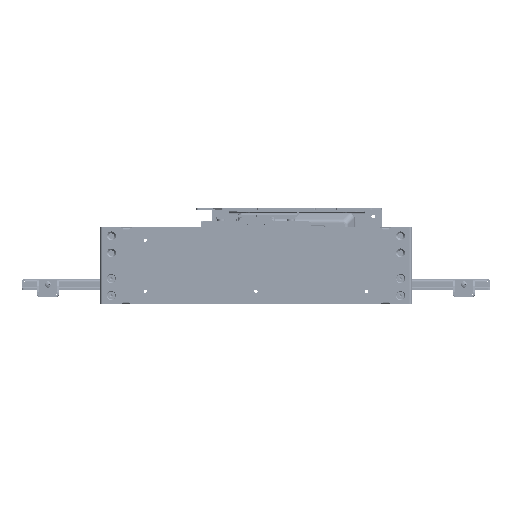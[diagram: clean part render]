
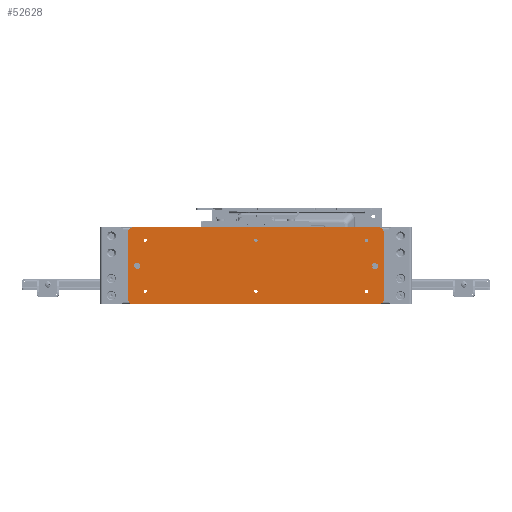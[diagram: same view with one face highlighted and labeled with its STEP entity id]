
A CAD part, top view. The second image highlights one B-rep face of the part: STEP entity #52628.
In plain terms, the highlighted planar face has unit normal (0, 0, 1) as drawn and (0, 0, -1) by its records, which use the part's own axes.
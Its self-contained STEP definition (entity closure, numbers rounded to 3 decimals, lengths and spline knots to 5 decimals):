
#4803=LINE('',#84279,#9643);
#4807=LINE('',#84288,#9647);
#4811=LINE('',#84297,#9651);
#4817=LINE('',#84321,#9657);
#9643=VECTOR('',#68174,1.);
#9647=VECTOR('',#68180,1.);
#9651=VECTOR('',#68186,1.);
#9657=VECTOR('',#68206,1.);
#17916=ORIENTED_EDGE('',*,*,#30317,.T.);
#17917=ORIENTED_EDGE('',*,*,#30318,.T.);
#17918=ORIENTED_EDGE('',*,*,#30319,.T.);
#17919=ORIENTED_EDGE('',*,*,#30320,.T.);
#17920=ORIENTED_EDGE('',*,*,#30321,.T.);
#17921=ORIENTED_EDGE('',*,*,#30322,.T.);
#17922=ORIENTED_EDGE('',*,*,#30300,.T.);
#17923=ORIENTED_EDGE('',*,*,#30302,.T.);
#17924=ORIENTED_EDGE('',*,*,#30305,.F.);
#17925=ORIENTED_EDGE('',*,*,#30323,.T.);
#17926=ORIENTED_EDGE('',*,*,#30295,.F.);
#17927=ORIENTED_EDGE('',*,*,#30324,.T.);
#17928=ORIENTED_EDGE('',*,*,#30291,.T.);
#17929=ORIENTED_EDGE('',*,*,#30325,.T.);
#17930=ORIENTED_EDGE('',*,*,#30287,.T.);
#17931=ORIENTED_EDGE('',*,*,#30326,.T.);
#30287=EDGE_CURVE('',#36923,#36924,#4803,.T.);
#30291=EDGE_CURVE('',#36927,#36928,#4807,.T.);
#30295=EDGE_CURVE('',#36931,#36932,#4811,.T.);
#30300=EDGE_CURVE('',#36936,#36936,#40856,.F.);
#30302=EDGE_CURVE('',#36938,#36938,#40858,.F.);
#30305=EDGE_CURVE('',#36941,#36942,#4817,.T.);
#30317=EDGE_CURVE('',#36949,#36949,#40869,.F.);
#30318=EDGE_CURVE('',#36950,#36950,#40870,.F.);
#30319=EDGE_CURVE('',#36951,#36951,#40871,.F.);
#30320=EDGE_CURVE('',#36952,#36952,#40872,.F.);
#30321=EDGE_CURVE('',#36953,#36953,#40873,.F.);
#30322=EDGE_CURVE('',#36954,#36954,#40874,.F.);
#30323=EDGE_CURVE('',#36941,#36932,#40875,.T.);
#30324=EDGE_CURVE('',#36931,#36927,#40876,.T.);
#30325=EDGE_CURVE('',#36928,#36923,#40877,.T.);
#30326=EDGE_CURVE('',#36924,#36942,#40878,.T.);
#36923=VERTEX_POINT('',#84280);
#36924=VERTEX_POINT('',#84281);
#36927=VERTEX_POINT('',#84289);
#36928=VERTEX_POINT('',#84290);
#36931=VERTEX_POINT('',#84298);
#36932=VERTEX_POINT('',#84299);
#36936=VERTEX_POINT('',#84309);
#36938=VERTEX_POINT('',#84314);
#36941=VERTEX_POINT('',#84320);
#36942=VERTEX_POINT('',#84322);
#36949=VERTEX_POINT('',#84343);
#36950=VERTEX_POINT('',#84345);
#36951=VERTEX_POINT('',#84347);
#36952=VERTEX_POINT('',#84349);
#36953=VERTEX_POINT('',#84351);
#36954=VERTEX_POINT('',#84353);
#40856=CIRCLE('',#59394,0.00396);
#40858=CIRCLE('',#59397,0.00396);
#40869=CIRCLE('',#59411,0.00246);
#40870=CIRCLE('',#59412,0.00246);
#40871=CIRCLE('',#59413,0.00246);
#40872=CIRCLE('',#59414,0.00246);
#40873=CIRCLE('',#59415,0.00246);
#40874=CIRCLE('',#59416,0.00246);
#40875=CIRCLE('',#59417,0.00635);
#40876=CIRCLE('',#59418,0.00635);
#40877=CIRCLE('',#59419,0.00635);
#40878=CIRCLE('',#59420,0.00635);
#43578=EDGE_LOOP('',(#17916));
#43579=EDGE_LOOP('',(#17917));
#43580=EDGE_LOOP('',(#17918));
#43581=EDGE_LOOP('',(#17919));
#43582=EDGE_LOOP('',(#17920));
#43583=EDGE_LOOP('',(#17921));
#43584=EDGE_LOOP('',(#17922));
#43585=EDGE_LOOP('',(#17923));
#43586=EDGE_LOOP('',(#17924,#17925,#17926,#17927,#17928,#17929,#17930,#17931));
#47407=FACE_BOUND('',#43578,.T.);
#47408=FACE_BOUND('',#43579,.T.);
#47409=FACE_BOUND('',#43580,.T.);
#47410=FACE_BOUND('',#43581,.T.);
#47411=FACE_BOUND('',#43582,.T.);
#47412=FACE_BOUND('',#43583,.T.);
#47413=FACE_BOUND('',#43584,.T.);
#47414=FACE_BOUND('',#43585,.T.);
#47415=FACE_BOUND('',#43586,.T.);
#50519=PLANE('',#59410);
#52628=ADVANCED_FACE('',(#47407,#47408,#47409,#47410,#47411,#47412,#47413,
#47414,#47415),#50519,.T.);
#59394=AXIS2_PLACEMENT_3D('',#84308,#68194,#68195);
#59397=AXIS2_PLACEMENT_3D('',#84313,#68200,#68201);
#59410=AXIS2_PLACEMENT_3D('',#84341,#68230,#68231);
#59411=AXIS2_PLACEMENT_3D('',#84342,#68232,#68233);
#59412=AXIS2_PLACEMENT_3D('',#84344,#68234,#68235);
#59413=AXIS2_PLACEMENT_3D('',#84346,#68236,#68237);
#59414=AXIS2_PLACEMENT_3D('',#84348,#68238,#68239);
#59415=AXIS2_PLACEMENT_3D('',#84350,#68240,#68241);
#59416=AXIS2_PLACEMENT_3D('',#84352,#68242,#68243);
#59417=AXIS2_PLACEMENT_3D('',#84354,#68244,#68245);
#59418=AXIS2_PLACEMENT_3D('',#84355,#68246,#68247);
#59419=AXIS2_PLACEMENT_3D('',#84356,#68248,#68249);
#59420=AXIS2_PLACEMENT_3D('',#84357,#68250,#68251);
#68174=DIRECTION('',(-1.,0.,0.));
#68180=DIRECTION('',(0.,-1.,0.));
#68186=DIRECTION('',(-1.,0.,0.));
#68194=DIRECTION('',(0.,0.,-1.));
#68195=DIRECTION('',(-1.,0.,0.));
#68200=DIRECTION('',(0.,0.,-1.));
#68201=DIRECTION('',(-1.,0.,0.));
#68206=DIRECTION('',(0.,-1.,0.));
#68230=DIRECTION('',(0.,0.,-1.));
#68231=DIRECTION('',(1.,0.,0.));
#68232=DIRECTION('',(0.,0.,-1.));
#68233=DIRECTION('',(-1.,0.,0.));
#68234=DIRECTION('',(0.,0.,-1.));
#68235=DIRECTION('',(-1.,0.,0.));
#68236=DIRECTION('',(0.,0.,-1.));
#68237=DIRECTION('',(-1.,0.,0.));
#68238=DIRECTION('',(0.,0.,-1.));
#68239=DIRECTION('',(-1.,0.,0.));
#68240=DIRECTION('',(0.,0.,-1.));
#68241=DIRECTION('',(-1.,0.,0.));
#68242=DIRECTION('',(0.,0.,-1.));
#68243=DIRECTION('',(-1.,0.,0.));
#68244=DIRECTION('',(0.,0.,-1.));
#68245=DIRECTION('',(-1.,0.,0.));
#68246=DIRECTION('',(0.,0.,-1.));
#68247=DIRECTION('',(-1.,0.,0.));
#68248=DIRECTION('',(0.,0.,-1.));
#68249=DIRECTION('',(-1.,0.,0.));
#68250=DIRECTION('',(0.,0.,-1.));
#68251=DIRECTION('',(-1.,0.,0.));
#84279=CARTESIAN_POINT('',(0.,-0.05715,-0.00229));
#84280=CARTESIAN_POINT('',(0.18415,-0.05715,-0.00229));
#84281=CARTESIAN_POINT('',(-0.18415,-0.05715,-0.00229));
#84288=CARTESIAN_POINT('',(0.1905,0.,-0.00229));
#84289=CARTESIAN_POINT('',(0.1905,0.0508,-0.00229));
#84290=CARTESIAN_POINT('',(0.1905,-0.0508,-0.00229));
#84297=CARTESIAN_POINT('',(0.,0.05715,-0.00229));
#84298=CARTESIAN_POINT('',(0.18415,0.05715,-0.00229));
#84299=CARTESIAN_POINT('',(-0.18415,0.05715,-0.00229));
#84308=CARTESIAN_POINT('',(-0.1778,0.,-0.00229));
#84309=CARTESIAN_POINT('',(-0.18176,0.,-0.00229));
#84313=CARTESIAN_POINT('',(0.1778,0.,-0.00229));
#84314=CARTESIAN_POINT('',(0.17384,0.,-0.00229));
#84320=CARTESIAN_POINT('',(-0.1905,0.0508,-0.00229));
#84321=CARTESIAN_POINT('',(-0.1905,0.,-0.00229));
#84322=CARTESIAN_POINT('',(-0.1905,-0.0508,-0.00229));
#84341=CARTESIAN_POINT('',(0.,0.,-0.00229));
#84342=CARTESIAN_POINT('',(-0.1651,0.0381,-0.00229));
#84343=CARTESIAN_POINT('',(-0.16756,0.0381,-0.00229));
#84344=CARTESIAN_POINT('',(0.,0.0381,-0.00229));
#84345=CARTESIAN_POINT('',(-0.00246,0.0381,-0.00229));
#84346=CARTESIAN_POINT('',(0.1651,0.0381,-0.00229));
#84347=CARTESIAN_POINT('',(0.16264,0.0381,-0.00229));
#84348=CARTESIAN_POINT('',(0.1651,-0.0381,-0.00229));
#84349=CARTESIAN_POINT('',(0.16264,-0.0381,-0.00229));
#84350=CARTESIAN_POINT('',(0.,-0.0381,-0.00229));
#84351=CARTESIAN_POINT('',(-0.00246,-0.0381,-0.00229));
#84352=CARTESIAN_POINT('',(-0.1651,-0.0381,-0.00229));
#84353=CARTESIAN_POINT('',(-0.16756,-0.0381,-0.00229));
#84354=CARTESIAN_POINT('',(-0.18415,0.0508,-0.00229));
#84355=CARTESIAN_POINT('',(0.18415,0.0508,-0.00229));
#84356=CARTESIAN_POINT('',(0.18415,-0.0508,-0.00229));
#84357=CARTESIAN_POINT('',(-0.18415,-0.0508,-0.00229));
